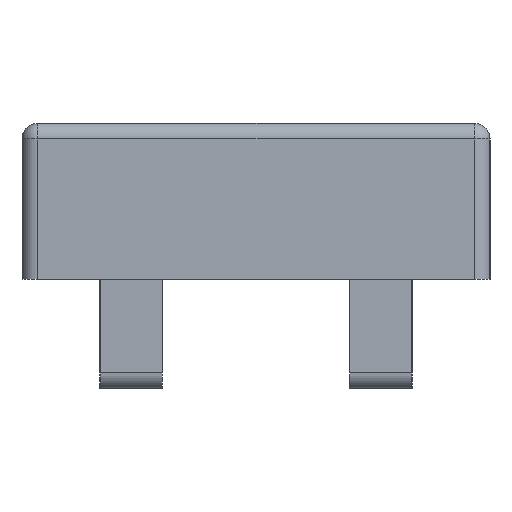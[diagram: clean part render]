
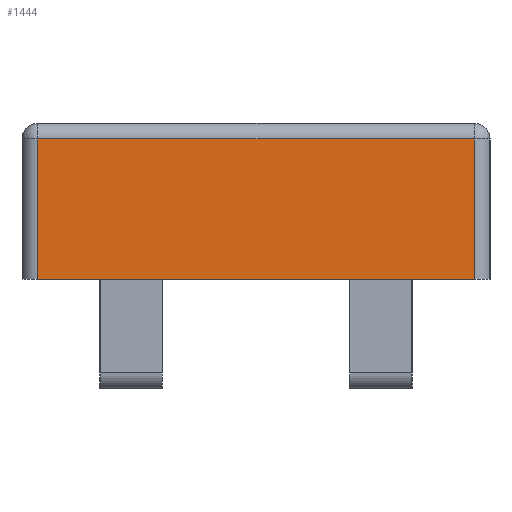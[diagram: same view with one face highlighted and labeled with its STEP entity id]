
A CAD part, left-side view. The second image highlights one B-rep face of the part: STEP entity #1444.
In plain terms, the highlighted planar face has unit normal (-1, 0, 0).
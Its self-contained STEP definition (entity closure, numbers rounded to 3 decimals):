
#122 = EDGE_CURVE ( 'NONE', #210, #935, #1305, .T. ) ;
#184 = EDGE_CURVE ( 'NONE', #935, #723, #1165, .T. ) ;
#210 = VERTEX_POINT ( 'NONE', #607 ) ;
#248 = CARTESIAN_POINT ( 'NONE',  ( -30., -7., 0. ) ) ;
#271 = VECTOR ( 'NONE', #474, 1000. ) ;
#288 = LINE ( 'NONE', #625, #271 ) ;
#345 = DIRECTION ( 'NONE',  ( 1., 0., 0. ) ) ;
#359 = PLANE ( 'NONE',  #1346 ) ;
#409 = DIRECTION ( 'NONE',  ( 0., 1., 0. ) ) ;
#474 = DIRECTION ( 'NONE',  ( 0., 0., -1. ) ) ;
#476 = DIRECTION ( 'NONE',  ( 0., 0., -1. ) ) ;
#524 = ORIENTED_EDGE ( 'NONE', *, *, #1211, .T. ) ;
#574 = LINE ( 'NONE', #1466, #732 ) ;
#607 = CARTESIAN_POINT ( 'NONE',  ( -30., 7., 0. ) ) ;
#625 = CARTESIAN_POINT ( 'NONE',  ( -30., 7., 5. ) ) ;
#680 = EDGE_LOOP ( 'NONE', ( #783, #721, #524, #1501 ) ) ;
#700 = CARTESIAN_POINT ( 'NONE',  ( -30., -7.5, 5. ) ) ;
#721 = ORIENTED_EDGE ( 'NONE', *, *, #184, .T. ) ;
#723 = VERTEX_POINT ( 'NONE', #918 ) ;
#732 = VECTOR ( 'NONE', #409, 1000. ) ;
#783 = ORIENTED_EDGE ( 'NONE', *, *, #122, .T. ) ;
#815 = VERTEX_POINT ( 'NONE', #1447 ) ;
#918 = CARTESIAN_POINT ( 'NONE',  ( -30., -7., 4.5 ) ) ;
#935 = VERTEX_POINT ( 'NONE', #248 ) ;
#1082 = DIRECTION ( 'NONE',  ( 0., 0., 1. ) ) ;
#1098 = EDGE_CURVE ( 'NONE', #815, #210, #288, .T. ) ;
#1132 = VECTOR ( 'NONE', #1082, 1000. ) ;
#1160 = CARTESIAN_POINT ( 'NONE',  ( -30., -7., 5. ) ) ;
#1165 = LINE ( 'NONE', #1160, #1132 ) ;
#1211 = EDGE_CURVE ( 'NONE', #723, #815, #574, .T. ) ;
#1273 = VECTOR ( 'NONE', #1507, 1000. ) ;
#1305 = LINE ( 'NONE', #1429, #1273 ) ;
#1346 = AXIS2_PLACEMENT_3D ( 'NONE', #700, #345, #476 ) ;
#1387 = FACE_OUTER_BOUND ( 'NONE', #680, .T. ) ;
#1429 = CARTESIAN_POINT ( 'NONE',  ( -30., -7.5, 0. ) ) ;
#1444 = ADVANCED_FACE ( 'NONE', ( #1387 ), #359, .F. ) ;
#1447 = CARTESIAN_POINT ( 'NONE',  ( -30., 7., 4.5 ) ) ;
#1466 = CARTESIAN_POINT ( 'NONE',  ( -30., -7.5, 4.5 ) ) ;
#1501 = ORIENTED_EDGE ( 'NONE', *, *, #1098, .T. ) ;
#1507 = DIRECTION ( 'NONE',  ( 0., -1., 0. ) ) ;
